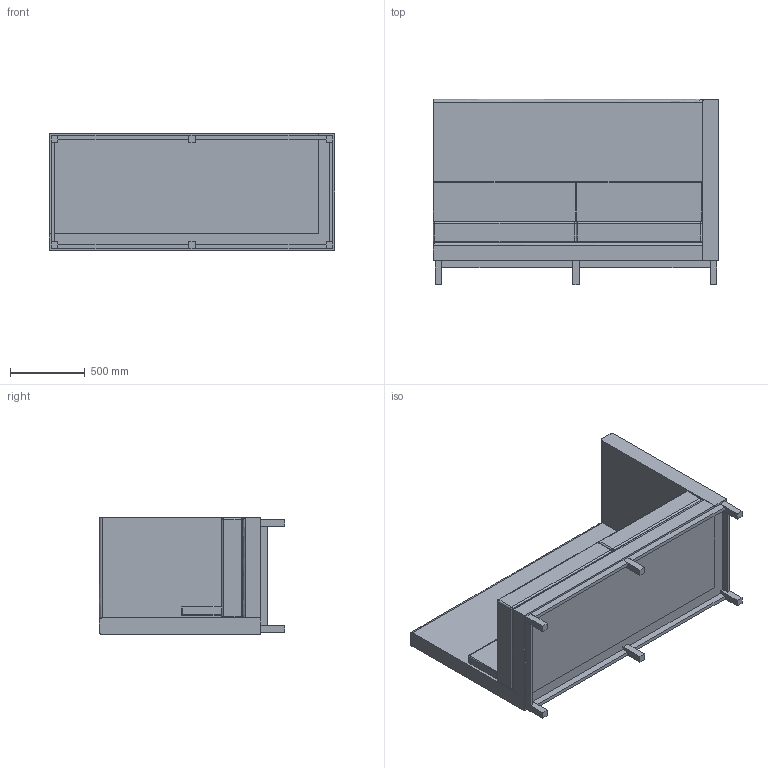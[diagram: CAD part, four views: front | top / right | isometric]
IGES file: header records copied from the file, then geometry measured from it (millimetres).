
Start section: SolidWorks IGES file using analytic representation for surfaces
Global section: file name: P:\3D CAD BLOCKS\ARTHUR CITYSCAPE\HB Plain Compact LHS\IGS\ART-HB-PLAIN-LH-ART-CITY-LH.IGS; native system: SolidWorks 2012; preprocessor: SolidWorks 2012; author: tom; date: 160523.091431; units: millimetre
Bounding box: 1910 x 1240 x 780 mm (x, y, z)
Surface area: 14656664.8 mm2 (no closed solid volume)
Topology: 0 solids, 0 shells, 196 faces, 896 edges, 885 vertices
Faces by surface type: bspline 110, revolution 86
